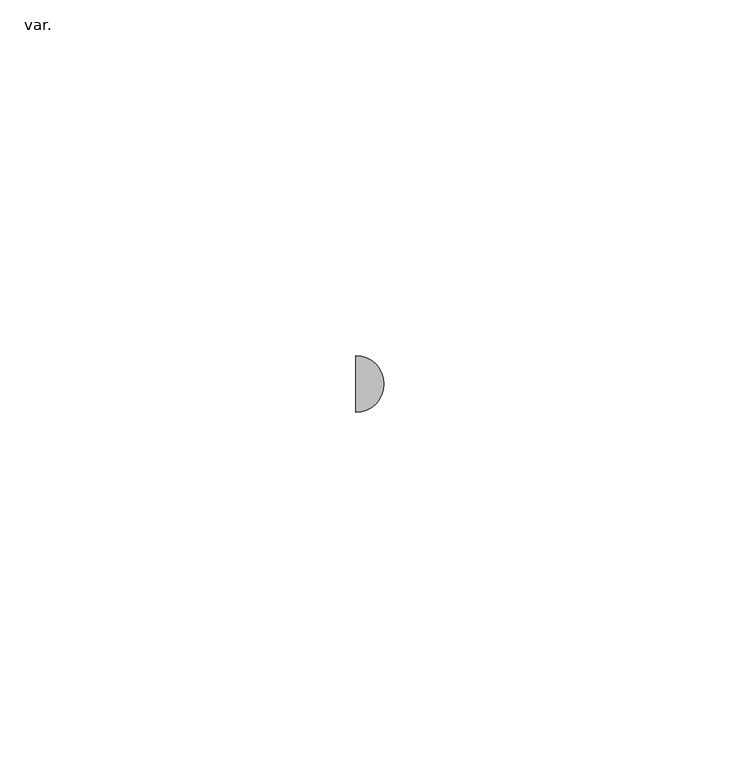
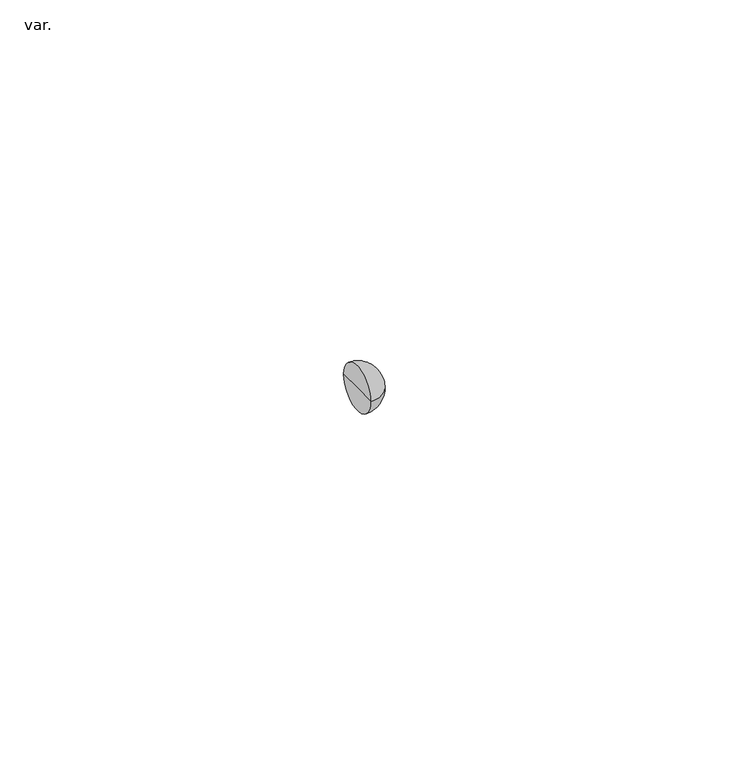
"""IFC4 building model written with IfcOpenShell, lengths in millimetres: pipe fitting geometry, NLRS_52_PIF_UN_Vacurain Flex multi bocht_Dyka : var.."""

from ifc_helpers import new_model, si_unit, point, frame, origin, place, context, project, spatial, circle_curve, ellipse_curve, trimmed, source, transform, mapped, element, save
from ifc_brep_helpers import plane_surface, revolved_surface, advanced_brep


def var_f0e763de(model_context):
    return source(origin(), model_context, "Body", "AdvancedBrep", [
        advanced_brep(
        [(-114.0, -4.0, 0.0), (-114.0, 4.0, 0.0), (-110.0, 0.0, 0.0), (-114.0, 0.0, 0.0)],
        [
            (0, 1, circle_curve(frame((-114.0, 0.0, 0.0), z_axis=(1.0, 0.0, 0.0), x_axis=(0.0, 1.0, 0.0)), 4.0)),
            (1, 2, circle_curve(frame((-114.0, 0.0, 0.0), z_axis=(0.0, 0.0, -1.0), x_axis=(1.0, 0.0, 0.0)), 4.0)),
            (2, 0, circle_curve(frame((-114.0, 0.0, 0.0), z_axis=(0.0, 0.0, -1.0), x_axis=(1.0, 0.0, 0.0)), 4.0)),
            (1, 0, circle_curve(frame((-114.0, 0.0, 0.0), z_axis=(1.0, 0.0, 0.0), x_axis=(0.0, 1.0, 0.0)), 4.0)),
            (3, 1),
            (0, 3),
        ],
        [
            revolved_surface(trimmed(ellipse_curve(frame((-114.0, 0.0, 0.0), z_axis=(0.0, 0.0, 1.0), x_axis=(1.0, 0.0, 0.0)), 4.0, 4.0), [point((-110.0, 0.0, 0.0))], [point((-114.0, 4.0, 0.0))], True, "CARTESIAN"), (-112.0, 0.0, 0.0), (-1.0, 0.0, 0.0)),
            plane_surface(frame((-114.0, 0.0, 0.0), z_axis=(-1.0, 0.0, 0.0), x_axis=(0.0, 1.0, 0.0))),
        ],
        [
            (0, [[1, 2, 3]]),
            (0, [[4, -3, -2]]),
            (1, [[5, -1, 6]]),
            (1, [[-6, -4, -5]]),
        ],
    ),
    ])


if __name__ == "__main__":
    model = new_model("IFC4")
    model_context = context("Model", 3, world=origin())
    ifc_project = project(units=[si_unit("LENGTHUNIT", "METRE", prefix="MILLI")], contexts=[model_context])
    site = spatial("IfcSite", under=ifc_project)
    building = spatial("IfcBuilding", under=site)
    placement = place(None, origin())
    var_shape = var_f0e763de(model_context)
    element("IfcPipeFitting", 1, ObjectType="NLRS_52_PIF_UN_Vacurain Flex multi bocht_Dyka : var.", at=placement, inside=building, context=model_context, shape_type="MappedRepresentation", body=[
        mapped(var_shape, transform((0.0, 0.0, 0.0), x_axis=(1.0, 0.0, 0.0), y_axis=(0.0, 1.0, 0.0), z_axis=(0.0, 0.0, 1.0))),
    ])
    save(model, "model.ifc")
